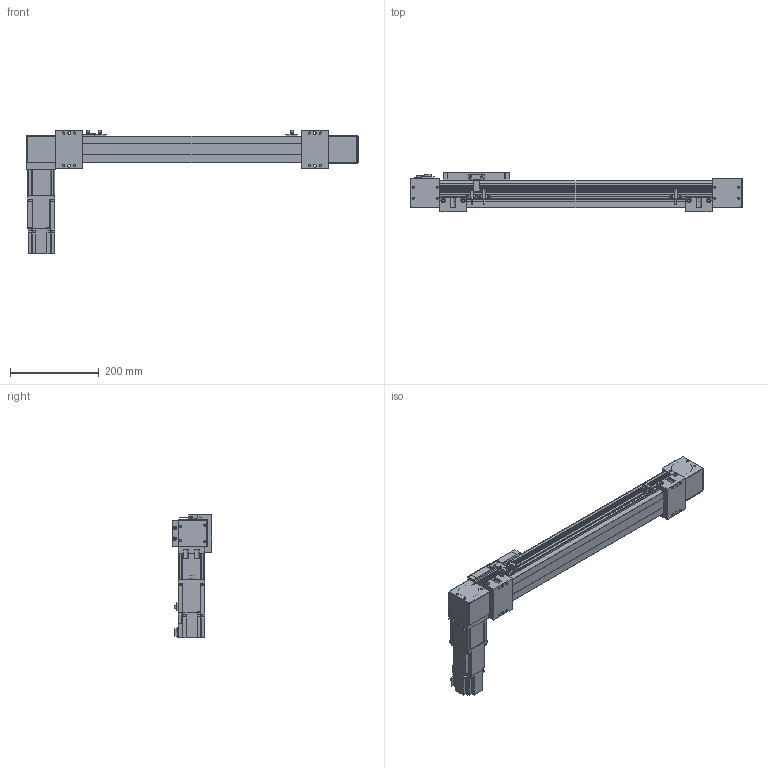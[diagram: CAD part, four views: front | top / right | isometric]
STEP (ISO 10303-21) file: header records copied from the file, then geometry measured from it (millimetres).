
FILE_DESCRIPTION(/* description */ ('STEP AP203'),/* implementation_level */ '2;1');
FILE_NAME(/* name */ 'SK60-P13-S450-BR-T40-C1-N(0)',/* time_stamp */ '2023-04-06T03:59:06+02:00',/* author */ ('License CC BY-ND 4.0'),/* organization */ ('CADENAS'),/* preprocessor_version */ 'ST-DEVELOPER v19.3',/* originating_system */ 'PARTsolutions',/* authorisation */ ' ');
FILE_SCHEMA (('CONFIG_CONTROL_DESIGN'));
Length unit declared in the file: millimetre
Products named in the file (11): SK60-P13-S450-BR-T40-C1-N(0); PSC140-sensor; SK60-S450_seat; SK60-S450-BL-C1_slider; SK60_body3; SK60_body6; SK60-BL_body2; T40-p1; SK60_body5; SK60_body4; SK60-S450-BR-C1_body
Assembly tree (17 placements, depth 2):
  SK60-P13-S450-BR-T40-C1-N(0)
    PSC140-sensor  x3
    SK60-S450_seat  x2
    SK60-S450-BL-C1_slider
    SK60_body3  x3
    SK60_body6  x2
    SK60-BL_body2  x2
    T40-p1
    SK60_body5
    SK60_body4
    SK60-S450-BR-C1_body
Bounding box: 750 x 90 x 279.1 mm (x, y, z)
Volume: 3197275.5 mm3; surface area: 485493.6 mm2
Topology: 17 solids, 21 shells, 834 faces, 2109 edges, 1394 vertices
Faces by surface type: plane 544, cylinder 266, cone 22, torus 2
Full cylindrical faces by diameter (mm): 2.8 x3, 3.3 x4, 4.2 x8, 4.5 x26, 4.6 x3, 4.917 x16, 5 x2, 5.478 x4, 5.5 x19, 6.5 x4, 8 x4, 8.5 x4, 9.988 x4, 10 x8, 13.556 x1, 14 x1, 14.586 x1, 19.692 x1, 38.432 x2, 43 x1, 44 x3, 47 x2, 50 x2
Entity records: 19371 total; most frequent: DIRECTION 3292, CARTESIAN_POINT 3289, ORIENTED_EDGE 3050, EDGE_CURVE 1525, AXIS2_PLACEMENT_3D 1100, LINE 1092, VECTOR 1092, VERTEX_POINT 1077
